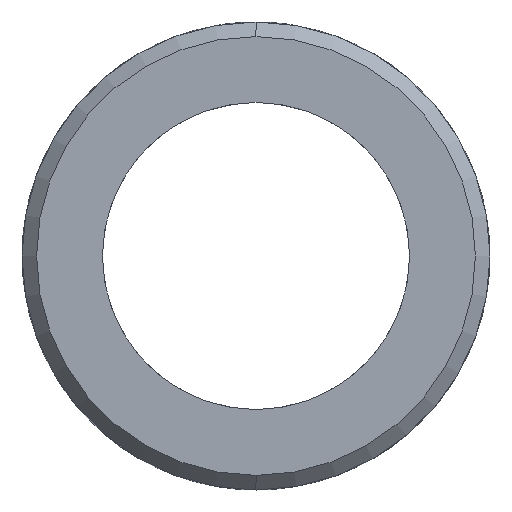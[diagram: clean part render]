
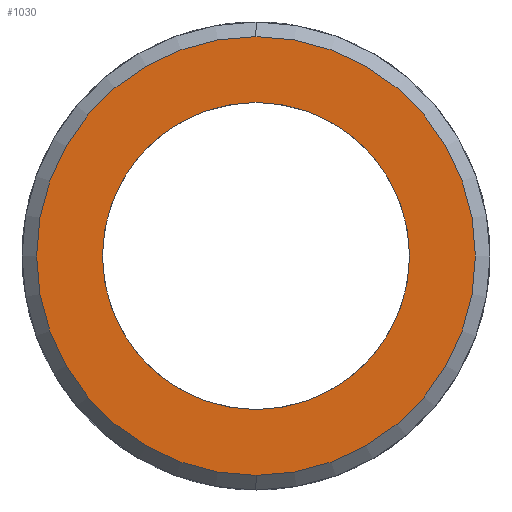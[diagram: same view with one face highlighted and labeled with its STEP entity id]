
A CAD part, left-side view. The second image highlights one B-rep face of the part: STEP entity #1030.
In plain terms, the highlighted planar face has unit normal (-1, 0, 0).
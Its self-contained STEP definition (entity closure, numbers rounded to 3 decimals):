
#21 = DIRECTION ( 'NONE',  ( -1., 0., 0. ) ) ;
#35 = DIRECTION ( 'NONE',  ( 0., 0., -1. ) ) ;
#63 = CARTESIAN_POINT ( 'NONE',  ( -34., 0., 0. ) ) ;
#65 = DIRECTION ( 'NONE',  ( 0., 0., -1. ) ) ;
#75 = DIRECTION ( 'NONE',  ( -1., 0., 0. ) ) ;
#83 = CARTESIAN_POINT ( 'NONE',  ( -34., 0., -15. ) ) ;
#88 = AXIS2_PLACEMENT_3D ( 'NONE', #63, #701, #167 ) ;
#94 = CARTESIAN_POINT ( 'NONE',  ( -34., 0., 10.5 ) ) ;
#121 = ORIENTED_EDGE ( 'NONE', *, *, #841, .T. ) ;
#165 = DIRECTION ( 'NONE',  ( 1., 0., 0. ) ) ;
#167 = DIRECTION ( 'NONE',  ( 0., 0., 1. ) ) ;
#199 = EDGE_CURVE ( 'NONE', #386, #800, #232, .T. ) ;
#218 = ORIENTED_EDGE ( 'NONE', *, *, #1080, .T. ) ;
#232 = CIRCLE ( 'NONE', #88, 10.5 ) ;
#245 = AXIS2_PLACEMENT_3D ( 'NONE', #435, #1066, #519 ) ;
#356 = ORIENTED_EDGE ( 'NONE', *, *, #199, .F. ) ;
#357 = EDGE_CURVE ( 'NONE', #800, #386, #801, .T. ) ;
#378 = ORIENTED_EDGE ( 'NONE', *, *, #357, .F. ) ;
#380 = CARTESIAN_POINT ( 'NONE',  ( -34., 0., -10.5 ) ) ;
#381 = FACE_OUTER_BOUND ( 'NONE', #772, .T. ) ;
#386 = VERTEX_POINT ( 'NONE', #380 ) ;
#435 = CARTESIAN_POINT ( 'NONE',  ( -34., 0., 0. ) ) ;
#519 = DIRECTION ( 'NONE',  ( 0., 0., -1. ) ) ;
#548 = EDGE_LOOP ( 'NONE', ( #378, #356 ) ) ;
#564 = CARTESIAN_POINT ( 'NONE',  ( -34., 0., 0. ) ) ;
#581 = AXIS2_PLACEMENT_3D ( 'NONE', #1056, #165, #65 ) ;
#618 = CARTESIAN_POINT ( 'NONE',  ( -34., 0., 0. ) ) ;
#647 = AXIS2_PLACEMENT_3D ( 'NONE', #618, #75, #35 ) ;
#659 = VERTEX_POINT ( 'NONE', #826 ) ;
#664 = DIRECTION ( 'NONE',  ( 0., 0., 1. ) ) ;
#701 = DIRECTION ( 'NONE',  ( -1., 0., 0. ) ) ;
#772 = EDGE_LOOP ( 'NONE', ( #121, #218 ) ) ;
#800 = VERTEX_POINT ( 'NONE', #94 ) ;
#801 = CIRCLE ( 'NONE', #999, 10.5 ) ;
#826 = CARTESIAN_POINT ( 'NONE',  ( -34., 0., 15. ) ) ;
#841 = EDGE_CURVE ( 'NONE', #873, #659, #1131, .T. ) ;
#873 = VERTEX_POINT ( 'NONE', #83 ) ;
#999 = AXIS2_PLACEMENT_3D ( 'NONE', #564, #21, #664 ) ;
#1030 = ADVANCED_FACE ( 'NONE', ( #381, #1106 ), #1157, .F. ) ;
#1056 = CARTESIAN_POINT ( 'NONE',  ( -34., 10.5, 0. ) ) ;
#1066 = DIRECTION ( 'NONE',  ( -1., 0., 0. ) ) ;
#1071 = CIRCLE ( 'NONE', #647, 15. ) ;
#1080 = EDGE_CURVE ( 'NONE', #659, #873, #1071, .T. ) ;
#1106 = FACE_BOUND ( 'NONE', #548, .T. ) ;
#1131 = CIRCLE ( 'NONE', #245, 15. ) ;
#1157 = PLANE ( 'NONE',  #581 ) ;
